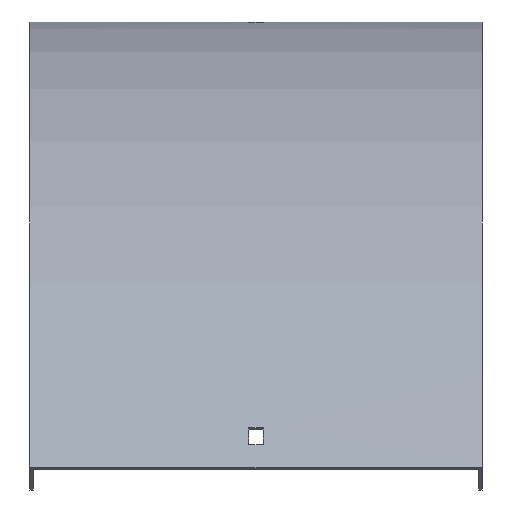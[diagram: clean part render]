
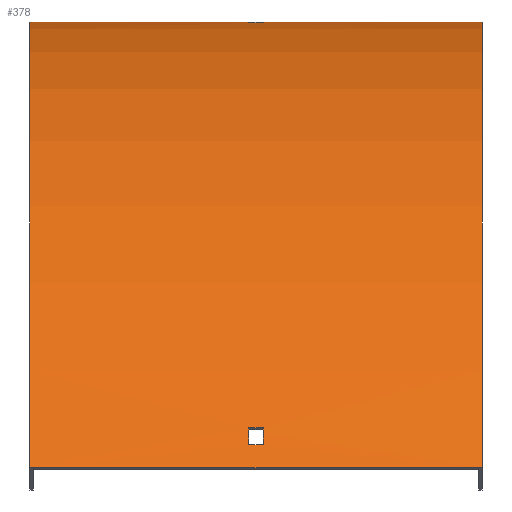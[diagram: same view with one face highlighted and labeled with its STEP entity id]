
A CAD part, top view. The second image highlights one B-rep face of the part: STEP entity #378.
In plain terms, the highlighted cylindrical face has radius 401.5 mm (diameter 803 mm), a partial arc.
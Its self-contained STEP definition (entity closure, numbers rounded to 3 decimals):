
#4 = VERTEX_POINT ( 'NONE', #186 ) ;
#11 = DIRECTION ( 'NONE',  ( -1., 0., 0. ) ) ;
#12 = EDGE_CURVE ( 'NONE', #211, #499, #588, .T. ) ;
#14 = CARTESIAN_POINT ( 'NONE',  ( -3.25, -182.838, 336.733 ) ) ;
#19 = DIRECTION ( 'NONE',  ( 1., 0., 0. ) ) ;
#20 = EDGE_CURVE ( 'NONE', #326, #198, #342, .T. ) ;
#21 = DIRECTION ( 'NONE',  ( 0., 1., 0. ) ) ;
#24 = VECTOR ( 'NONE', #584, 1000. ) ;
#26 = CIRCLE ( 'NONE', #192, 401.5 ) ;
#28 = DIRECTION ( 'NONE',  ( -1., 0., 0. ) ) ;
#32 = CARTESIAN_POINT ( 'NONE',  ( -3.25, -401.5, 0. ) ) ;
#33 = AXIS2_PLACEMENT_3D ( 'NONE', #341, #548, #531 ) ;
#43 = CARTESIAN_POINT ( 'NONE',  ( 3.25, -401.5, 0. ) ) ;
#58 = CIRCLE ( 'NONE', #401, 401.5 ) ;
#59 = EDGE_CURVE ( 'NONE', #198, #4, #26, .T. ) ;
#78 = AXIS2_PLACEMENT_3D ( 'NONE', #338, #193, #528 ) ;
#83 = ORIENTED_EDGE ( 'NONE', *, *, #308, .T. ) ;
#84 = VECTOR ( 'NONE', #130, 1000. ) ;
#92 = VERTEX_POINT ( 'NONE', #310 ) ;
#96 = DIRECTION ( 'NONE',  ( -1., 0., 0. ) ) ;
#124 = ORIENTED_EDGE ( 'NONE', *, *, #226, .F. ) ;
#130 = DIRECTION ( 'NONE',  ( -1., 0., 0. ) ) ;
#135 = EDGE_CURVE ( 'NONE', #323, #475, #203, .T. ) ;
#140 = CYLINDRICAL_SURFACE ( 'NONE', #515, 401.5 ) ;
#141 = ORIENTED_EDGE ( 'NONE', *, *, #275, .T. ) ;
#142 = DIRECTION ( 'NONE',  ( 0., 0., -1. ) ) ;
#143 = ORIENTED_EDGE ( 'NONE', *, *, #218, .F. ) ;
#146 = CARTESIAN_POINT ( 'NONE',  ( -3.25, -0.179, 12. ) ) ;
#148 = CARTESIAN_POINT ( 'NONE',  ( 101.5, -0.179, 12. ) ) ;
#149 = CARTESIAN_POINT ( 'NONE',  ( -101.5, 0., 0. ) ) ;
#152 = DIRECTION ( 'NONE',  ( -1., 0., 0. ) ) ;
#153 = AXIS2_PLACEMENT_3D ( 'NONE', #413, #567, #142 ) ;
#156 = ORIENTED_EDGE ( 'NONE', *, *, #359, .T. ) ;
#162 = ORIENTED_EDGE ( 'NONE', *, *, #12, .T. ) ;
#164 = VECTOR ( 'NONE', #19, 1000. ) ;
#167 = DIRECTION ( 'NONE',  ( 1., 0., 0. ) ) ;
#180 = EDGE_CURVE ( 'NONE', #92, #425, #248, .T. ) ;
#186 = CARTESIAN_POINT ( 'NONE',  ( -3.25, -190.447, 341.554 ) ) ;
#192 = AXIS2_PLACEMENT_3D ( 'NONE', #32, #550, #21 ) ;
#193 = DIRECTION ( 'NONE',  ( -1., 0., 0. ) ) ;
#198 = VERTEX_POINT ( 'NONE', #14 ) ;
#202 = VERTEX_POINT ( 'NONE', #149 ) ;
#203 = LINE ( 'NONE', #388, #394 ) ;
#211 = VERTEX_POINT ( 'NONE', #146 ) ;
#218 = EDGE_CURVE ( 'NONE', #384, #323, #311, .T. ) ;
#219 = EDGE_LOOP ( 'NONE', ( #587, #555, #593, #124 ) ) ;
#224 = CARTESIAN_POINT ( 'NONE',  ( -101.5, -200.75, 347.709 ) ) ;
#226 = EDGE_CURVE ( 'NONE', #4, #530, #250, .T. ) ;
#234 = DIRECTION ( 'NONE',  ( 0., 0., 1. ) ) ;
#238 = DIRECTION ( 'NONE',  ( 0., 0., 1. ) ) ;
#248 = LINE ( 'NONE', #430, #24 ) ;
#250 = LINE ( 'NONE', #433, #164 ) ;
#252 = CARTESIAN_POINT ( 'NONE',  ( 101.5, -182.838, 336.733 ) ) ;
#261 = CARTESIAN_POINT ( 'NONE',  ( -3.25, -0.55, 21. ) ) ;
#272 = VECTOR ( 'NONE', #498, 1000. ) ;
#275 = EDGE_CURVE ( 'NONE', #384, #202, #409, .T. ) ;
#278 = ORIENTED_EDGE ( 'NONE', *, *, #135, .F. ) ;
#279 = CARTESIAN_POINT ( 'NONE',  ( 3.25, -182.838, 336.733 ) ) ;
#280 = EDGE_CURVE ( 'NONE', #499, #92, #426, .T. ) ;
#292 = CARTESIAN_POINT ( 'NONE',  ( 101.5, 0., 0. ) ) ;
#297 = EDGE_CURVE ( 'NONE', #530, #326, #58, .T. ) ;
#308 = EDGE_CURVE ( 'NONE', #425, #211, #479, .T. ) ;
#310 = CARTESIAN_POINT ( 'NONE',  ( 3.25, -0.55, 21. ) ) ;
#311 = CIRCLE ( 'NONE', #33, 401.5 ) ;
#316 = DIRECTION ( 'NONE',  ( 0., 0., -1. ) ) ;
#323 = VERTEX_POINT ( 'NONE', #418 ) ;
#326 = VERTEX_POINT ( 'NONE', #279 ) ;
#327 = FACE_BOUND ( 'NONE', #219, .T. ) ;
#336 = EDGE_LOOP ( 'NONE', ( #382, #83, #162, #602 ) ) ;
#338 = CARTESIAN_POINT ( 'NONE',  ( -3.25, -401.5, 0. ) ) ;
#341 = CARTESIAN_POINT ( 'NONE',  ( 101.5, -401.5, 0. ) ) ;
#342 = LINE ( 'NONE', #252, #561 ) ;
#359 = EDGE_CURVE ( 'NONE', #202, #475, #419, .T. ) ;
#370 = FACE_OUTER_BOUND ( 'NONE', #493, .T. ) ;
#378 = ADVANCED_FACE ( 'NONE', ( #370, #464, #327 ), #140, .T. ) ;
#382 = ORIENTED_EDGE ( 'NONE', *, *, #180, .T. ) ;
#384 = VERTEX_POINT ( 'NONE', #292 ) ;
#388 = CARTESIAN_POINT ( 'NONE',  ( 101.5, -200.75, 347.709 ) ) ;
#394 = VECTOR ( 'NONE', #152, 1000. ) ;
#400 = CARTESIAN_POINT ( 'NONE',  ( 101.5, 0., 0. ) ) ;
#401 = AXIS2_PLACEMENT_3D ( 'NONE', #43, #11, #238 ) ;
#407 = CARTESIAN_POINT ( 'NONE',  ( 3.25, -401.5, 0. ) ) ;
#409 = LINE ( 'NONE', #400, #84 ) ;
#413 = CARTESIAN_POINT ( 'NONE',  ( -101.5, -401.5, 0. ) ) ;
#415 = CARTESIAN_POINT ( 'NONE',  ( 101.5, -401.5, 0. ) ) ;
#418 = CARTESIAN_POINT ( 'NONE',  ( 101.5, -200.75, 347.709 ) ) ;
#419 = CIRCLE ( 'NONE', #153, 401.5 ) ;
#425 = VERTEX_POINT ( 'NONE', #261 ) ;
#426 = CIRCLE ( 'NONE', #512, 401.5 ) ;
#430 = CARTESIAN_POINT ( 'NONE',  ( 101.5, -0.55, 21. ) ) ;
#433 = CARTESIAN_POINT ( 'NONE',  ( 101.5, -190.447, 341.554 ) ) ;
#458 = CARTESIAN_POINT ( 'NONE',  ( 3.25, -0.179, 12. ) ) ;
#464 = FACE_BOUND ( 'NONE', #336, .T. ) ;
#475 = VERTEX_POINT ( 'NONE', #224 ) ;
#479 = CIRCLE ( 'NONE', #78, 401.5 ) ;
#493 = EDGE_LOOP ( 'NONE', ( #156, #278, #143, #141 ) ) ;
#498 = DIRECTION ( 'NONE',  ( 1., 0., 0. ) ) ;
#499 = VERTEX_POINT ( 'NONE', #458 ) ;
#503 = CARTESIAN_POINT ( 'NONE',  ( 3.25, -190.447, 341.554 ) ) ;
#512 = AXIS2_PLACEMENT_3D ( 'NONE', #407, #167, #316 ) ;
#515 = AXIS2_PLACEMENT_3D ( 'NONE', #415, #96, #234 ) ;
#528 = DIRECTION ( 'NONE',  ( 0., 0., 1. ) ) ;
#530 = VERTEX_POINT ( 'NONE', #503 ) ;
#531 = DIRECTION ( 'NONE',  ( 0., 0., -1. ) ) ;
#548 = DIRECTION ( 'NONE',  ( 1., 0., 0. ) ) ;
#550 = DIRECTION ( 'NONE',  ( 1., 0., 0. ) ) ;
#555 = ORIENTED_EDGE ( 'NONE', *, *, #20, .F. ) ;
#561 = VECTOR ( 'NONE', #28, 1000. ) ;
#567 = DIRECTION ( 'NONE',  ( 1., 0., 0. ) ) ;
#584 = DIRECTION ( 'NONE',  ( -1., 0., 0. ) ) ;
#587 = ORIENTED_EDGE ( 'NONE', *, *, #59, .F. ) ;
#588 = LINE ( 'NONE', #148, #272 ) ;
#593 = ORIENTED_EDGE ( 'NONE', *, *, #297, .F. ) ;
#602 = ORIENTED_EDGE ( 'NONE', *, *, #280, .T. ) ;
